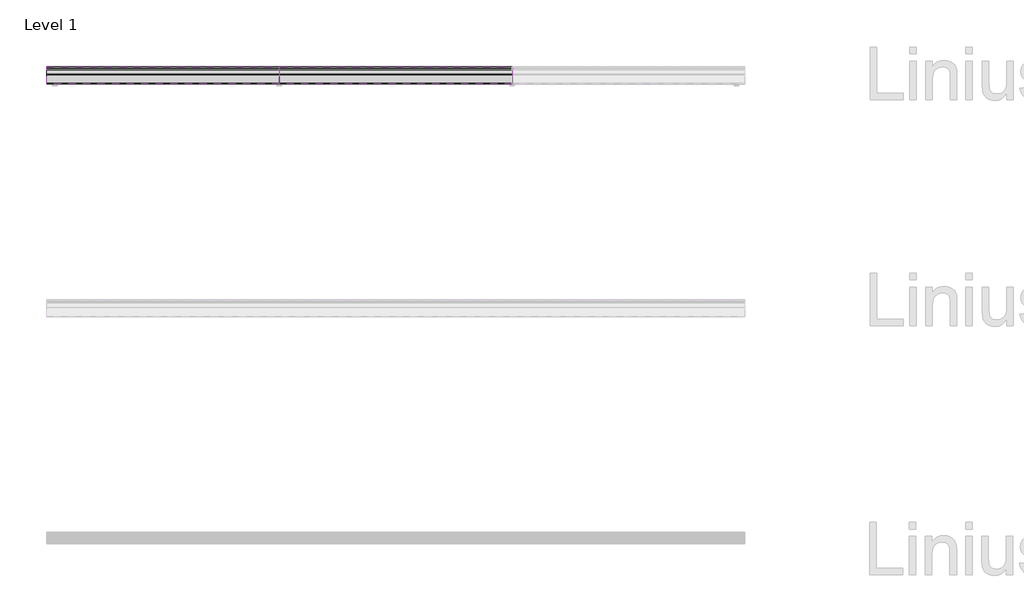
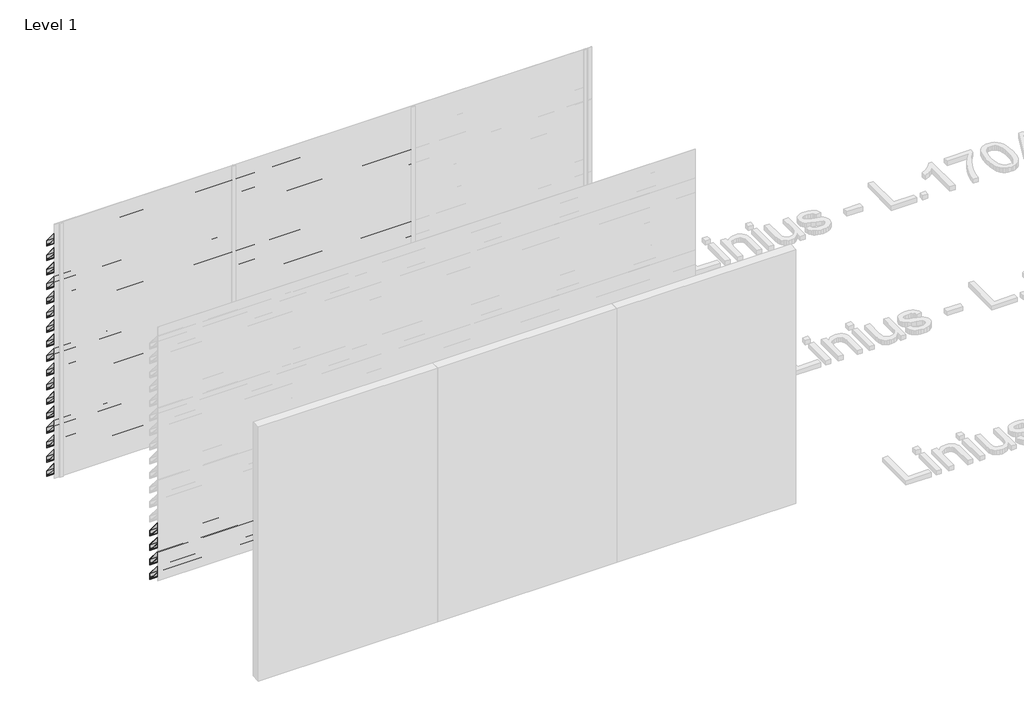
# One storey, part 52 of 121: 38 proxies.
"""IFC4 building model written with IfcOpenShell, lengths in millimetres."""

import ifcopenshell
import ifcopenshell.guid

model = None  # the IFC model being written
_history = None  # IfcOwnerHistory: only IFC2X3 demands one
_inside = {}  # id of a spatial element -> (the spatial element, [elements in it])
_under = {}  # id of a project, library or spatial element -> (it, [spatial elements below it])
_declared = {}  # id of a project -> (the project, [libraries it declares])
_typed = {}  # id of a type object -> (the type object, [elements of that type])
_made_of = {}  # id of a material, layer set ... -> (it, [elements and type objects made of it])


def new_model(schema):
    """Start an empty IFC model of exactly this schema.

    Asked for "IFC4X3", IfcOpenShell would pick the latest addendum, in which some entities
    have other attributes; the version numbers below select the first issue.
    IFC2X3 requires an IfcOwnerHistory on every rooted entity: one is made here for all.
    """
    global model, _history
    if schema == "IFC4X3":
        model = ifcopenshell.file(schema_version=(4, 3, 0, 0))
    else:
        model = ifcopenshell.file(schema=schema)
    _inside.clear()
    _under.clear()
    _declared.clear()
    _typed.clear()
    _made_of.clear()
    _history = None
    if model.schema == "IFC2X3":
        org = make("IfcOrganization", Name="unknown")
        user = make(
            "IfcPersonAndOrganization",
            ThePerson=make("IfcPerson", FamilyName="unknown"),
            TheOrganization=org,
        )
        app = make(
            "IfcApplication",
            ApplicationDeveloper=org,
            Version="unknown",
            ApplicationFullName="unknown",
            ApplicationIdentifier="unknown",
        )
        _history = make(
            "IfcOwnerHistory",
            OwningUser=user,
            OwningApplication=app,
            ChangeAction="ADDED",
            CreationDate=0,
        )
    return model


def make(cls, **values):
    """One entity of the class cls with the attributes given. An attribute that is None is left unset."""
    return model.create_entity(
        cls, **{name: value for name, value in values.items() if value is not None}
    )


def rooted(cls, **values):
    """An entity with a GlobalId (a new one), such as an element, a storey or a relation."""
    return make(cls, GlobalId=ifcopenshell.guid.new(), OwnerHistory=_history, **values)


def si_unit(unit_type, name, prefix=None):
    """IfcSIUnit, for example si_unit("LENGTHUNIT", "METRE", prefix="MILLI")."""
    return make("IfcSIUnit", UnitType=unit_type, Prefix=prefix, Name=name)


def assignment(units):
    """IfcUnitAssignment: the units of a project."""
    return None if units is None else make("IfcUnitAssignment", Units=units)


def point(xyz):
    """IfcCartesianPoint."""
    return None if xyz is None else make("IfcCartesianPoint", Coordinates=xyz)


def direction(xyz):
    """IfcDirection."""
    return None if xyz is None else make("IfcDirection", DirectionRatios=xyz)


def frame(location, z_axis=None, x_axis=None):
    """IfcAxis2Placement3D, a coordinate frame: its origin and axes. An axis left out is left unset."""
    return make(
        "IfcAxis2Placement3D",
        Location=point(location),
        Axis=direction(z_axis),
        RefDirection=direction(x_axis),
    )


def origin():
    """The frame at (0, 0, 0) with its axes left unset."""
    return frame((0.0, 0.0, 0.0))


def place(relative_to, where):
    """IfcLocalPlacement: puts the frame where relative to a parent placement (None: the world)."""
    return make(
        "IfcLocalPlacement", PlacementRelTo=relative_to, RelativePlacement=where
    )


def context(
    kind, dimensions, precision=None, world=None, true_north=None, identifier=None
):
    """IfcGeometricRepresentationContext, for example the 3D "Model" context."""
    return make(
        "IfcGeometricRepresentationContext",
        ContextIdentifier=identifier,
        ContextType=kind,
        CoordinateSpaceDimension=dimensions,
        Precision=precision,
        WorldCoordinateSystem=world,
        TrueNorth=true_north,
    )


def project(units=None, contexts=None):
    """IfcProject with its units and contexts."""
    return rooted(
        "IfcProject",
        Name="project",
        RepresentationContexts=contexts,
        UnitsInContext=assignment(units),
    )


def spatial(cls, under=None, at=None, **own):
    """A site, building, storey or space (cls), placed at a placement, below another one or the project."""
    s = rooted(cls, ObjectPlacement=at, **own)
    if under is not None:
        _under.setdefault(under.id(), (under, []))[1].append(s)
    return s


def polyline(points):
    """IfcPolyline through the points."""
    return make("IfcPolyline", Points=[point(p) for p in points])


def outline(outer, holes=None, kind="AREA"):
    """IfcArbitraryClosedProfileDef: a profile drawn as a closed curve; with holes, ...WithVoids."""
    if holes is None:
        return make("IfcArbitraryClosedProfileDef", ProfileType=kind, OuterCurve=outer)
    return make(
        "IfcArbitraryProfileDefWithVoids",
        ProfileType=kind,
        OuterCurve=outer,
        InnerCurves=holes,
    )


def extrude(swept, where, along, depth):
    """IfcExtrudedAreaSolid: the profile swept, set in the frame where, extruded along a direction by depth."""
    return make(
        "IfcExtrudedAreaSolid",
        SweptArea=swept,
        Position=where,
        ExtrudedDirection=direction(along),
        Depth=depth,
    )


def shape(context_of_items, identifier, shape_type, items):
    """IfcShapeRepresentation: the items that make up one representation, for example the "Body"."""
    return make(
        "IfcShapeRepresentation",
        ContextOfItems=context_of_items,
        RepresentationIdentifier=identifier,
        RepresentationType=shape_type,
        Items=items,
    )


def made_of(thing, what):
    """Note that an element or type object is made of a material, layer set ...; save() writes the relation."""
    if what is not None:
        _made_of.setdefault(what.id(), (what, []))[1].append(thing)
    return thing


def element(
    cls,
    number,
    at=None,
    inside=None,
    cuts=None,
    type_object=None,
    material=None,
    context=None,
    identifier="Body",
    shape_type=None,
    held_by="IfcProductDefinitionShape",
    body=None,
    shapes=None,
    **own,
):
    """One element of the class cls, such as IfcWall. Its Tag is "e" and its number.

    at: its placement. inside: the storey or other place that contains it. cuts: it is an
    opening in that element (IfcRelVoidsElement). A single representation is given by context,
    identifier, shape_type and body (its items); several are given by shapes. held_by: the class
    of the entity that holds the representations. save() writes the other relations.
    """
    e = rooted(cls, Tag="e%d" % number, ObjectPlacement=at, **own)
    if body is not None:
        shapes = [shape(context, identifier, shape_type, body)]
    if shapes is not None:
        e.Representation = make(held_by, Representations=shapes)
    if inside is not None:
        _inside.setdefault(inside.id(), (inside, []))[1].append(e)
    if cuts is not None:
        rooted(
            "IfcRelVoidsElement", RelatingBuildingElement=cuts, RelatedOpeningElement=e
        )
    if type_object is not None:
        _typed.setdefault(type_object.id(), (type_object, []))[1].append(e)
    return made_of(e, material)


def aggregate(whole, parts):
    """IfcRelAggregates: a whole, such as a stair, and the parts it consists of."""
    return rooted("IfcRelAggregates", RelatingObject=whole, RelatedObjects=parts)


def save(model, path):
    """Write the relations noted so far, then the file.

    IfcRelAggregates (storeys below a building ...), IfcRelContainedInSpatialStructure (elements
    in a storey), IfcRelDefinesByType, IfcRelAssociatesMaterial and IfcRelDeclares: one each for
    every whole, place, type object, material and project.
    """
    for whole, parts in _under.values():
        aggregate(whole, parts)
    for where, things in _inside.values():
        rooted(
            "IfcRelContainedInSpatialStructure",
            RelatedElements=things,
            RelatingStructure=where,
        )
    for kind, things in _typed.values():
        rooted("IfcRelDefinesByType", RelatedObjects=things, RelatingType=kind)
    for what, things in _made_of.values():
        rooted("IfcRelAssociatesMaterial", RelatedObjects=things, RelatingMaterial=what)
    for by, libraries in _declared.values():
        rooted("IfcRelDeclares", RelatingContext=by, RelatedDefinitions=libraries)
    model.write(path)


model = new_model("IFC4")

# Units and contexts
model_context = context("Model", 3, world=origin())
ifc_project = project(units=[si_unit("LENGTHUNIT", "METRE", prefix="MILLI")], contexts=[model_context])

# Site, building, storey
site = spatial("IfcSite", under=ifc_project)
building = spatial("IfcBuilding", under=site)
storey = spatial("IfcBuildingStorey", under=building, Name="Level 1", Elevation=0.0)

# Proxies
placement = place(None, origin())
element("IfcBuildingElementProxy", 1, Name="Wall Sweeps", at=placement, inside=storey, context=model_context, shape_type="SweptSolid", body=[
    extrude(outline(polyline([(44130.0540136, 2720.0), (44130.0540136, 2651.0), (44127.5540136, 2652.1657691), (44127.5540136, 2665.7059843), (44110.8041465, 2685.6676986), (44100.1189071, 2685.6676986), (43983.0540136, 2825.1802059), (43983.0540136, 2890.0), (43987.4070763, 2890.0), (44130.0540136, 2720.0)]), holes=[polyline([(43986.5210918, 2888.1), (43984.9540136, 2888.1), (43984.9540136, 2825.8717493), (44101.0048916, 2687.5676986), (44111.6901311, 2687.5676986), (44128.1540136, 2667.9468074), (44128.1540136, 2719.3084566), (43986.5210918, 2888.1)])]), frame((44966.6208097, 0.0, 0.0), z_axis=(1.0, 0.0, 0.0), x_axis=(0.0, 1.0, 0.0)), (0.0, 0.0, 1.0), 2000.0),
])
element("IfcBuildingElementProxy", 2, Name="Wall Sweeps", at=placement, inside=storey, context=model_context, shape_type="SweptSolid", body=[
    extrude(outline(polyline([(44130.0540136, 2550.0), (44130.0540136, 2481.0), (44127.5540136, 2482.1657691), (44127.5540136, 2495.7059843), (44110.8041465, 2515.6676986), (44100.1189071, 2515.6676986), (43983.0540136, 2655.1802059), (43983.0540136, 2720.0), (43987.4070763, 2720.0), (44130.0540136, 2550.0)]), holes=[polyline([(43986.5210918, 2718.1), (43984.9540136, 2718.1), (43984.9540136, 2655.8717493), (44101.0048916, 2517.5676986), (44111.6901311, 2517.5676986), (44128.1540136, 2497.9468074), (44128.1540136, 2549.3084566), (43986.5210918, 2718.1)])]), frame((44966.6208097, 0.0, 0.0), z_axis=(1.0, 0.0, 0.0), x_axis=(0.0, 1.0, 0.0)), (0.0, 0.0, 1.0), 2000.0),
])
element("IfcBuildingElementProxy", 3, Name="Wall Sweeps", at=placement, inside=storey, context=model_context, shape_type="SweptSolid", body=[
    extrude(outline(polyline([(44130.0540136, 2380.0), (44130.0540136, 2311.0), (44127.5540136, 2312.1657691), (44127.5540136, 2325.7059843), (44110.8041465, 2345.6676986), (44100.1189071, 2345.6676986), (43983.0540136, 2485.1802059), (43983.0540136, 2550.0), (43987.4070763, 2550.0), (44130.0540136, 2380.0)]), holes=[polyline([(43986.5210918, 2548.1), (43984.9540136, 2548.1), (43984.9540136, 2485.8717493), (44101.0048916, 2347.5676986), (44111.6901311, 2347.5676986), (44128.1540136, 2327.9468074), (44128.1540136, 2379.3084566), (43986.5210918, 2548.1)])]), frame((44966.6208097, 0.0, 0.0), z_axis=(1.0, 0.0, 0.0), x_axis=(0.0, 1.0, 0.0)), (0.0, 0.0, 1.0), 2000.0),
])
element("IfcBuildingElementProxy", 4, Name="Wall Sweeps", at=placement, inside=storey, context=model_context, shape_type="SweptSolid", body=[
    extrude(outline(polyline([(44130.0540136, 2210.0), (44130.0540136, 2141.0), (44127.5540136, 2142.1657691), (44127.5540136, 2155.7059843), (44110.8041465, 2175.6676986), (44100.1189071, 2175.6676986), (43983.0540136, 2315.1802059), (43983.0540136, 2380.0), (43987.4070763, 2380.0), (44130.0540136, 2210.0)]), holes=[polyline([(43986.5210918, 2378.1), (43984.9540136, 2378.1), (43984.9540136, 2315.8717493), (44101.0048916, 2177.5676986), (44111.6901311, 2177.5676986), (44128.1540136, 2157.9468074), (44128.1540136, 2209.3084566), (43986.5210918, 2378.1)])]), frame((44966.6208097, 0.0, 0.0), z_axis=(1.0, 0.0, 0.0), x_axis=(0.0, 1.0, 0.0)), (0.0, 0.0, 1.0), 2000.0),
])
element("IfcBuildingElementProxy", 5, Name="Wall Sweeps", at=placement, inside=storey, context=model_context, shape_type="SweptSolid", body=[
    extrude(outline(polyline([(44130.0540136, 2040.0), (44130.0540136, 1971.0), (44127.5540136, 1972.1657691), (44127.5540136, 1985.7059843), (44110.8041465, 2005.6676986), (44100.1189071, 2005.6676986), (43983.0540136, 2145.1802059), (43983.0540136, 2210.0), (43987.4070763, 2210.0), (44130.0540136, 2040.0)]), holes=[polyline([(43986.5210918, 2208.1), (43984.9540136, 2208.1), (43984.9540136, 2145.8717493), (44101.0048916, 2007.5676986), (44111.6901311, 2007.5676986), (44128.1540136, 1987.9468074), (44128.1540136, 2039.3084566), (43986.5210918, 2208.1)])]), frame((44966.6208097, 0.0, 0.0), z_axis=(1.0, 0.0, 0.0), x_axis=(0.0, 1.0, 0.0)), (0.0, 0.0, 1.0), 2000.0),
])
element("IfcBuildingElementProxy", 6, Name="Wall Sweeps", at=placement, inside=storey, context=model_context, shape_type="SweptSolid", body=[
    extrude(outline(polyline([(44130.0540136, 1870.0), (44130.0540136, 1801.0), (44127.5540136, 1802.1657691), (44127.5540136, 1815.7059843), (44110.8041465, 1835.6676986), (44100.1189071, 1835.6676986), (43983.0540136, 1975.1802059), (43983.0540136, 2040.0), (43987.4070763, 2040.0), (44130.0540136, 1870.0)]), holes=[polyline([(43986.5210918, 2038.1), (43984.9540136, 2038.1), (43984.9540136, 1975.8717493), (44101.0048916, 1837.5676986), (44111.6901311, 1837.5676986), (44128.1540136, 1817.9468074), (44128.1540136, 1869.3084566), (43986.5210918, 2038.1)])]), frame((44966.6208097, 0.0, 0.0), z_axis=(1.0, 0.0, 0.0), x_axis=(0.0, 1.0, 0.0)), (0.0, 0.0, 1.0), 2000.0),
])
element("IfcBuildingElementProxy", 7, Name="Wall Sweeps", at=placement, inside=storey, context=model_context, shape_type="SweptSolid", body=[
    extrude(outline(polyline([(44130.0540136, 1700.0), (44130.0540136, 1631.0), (44127.5540136, 1632.1657691), (44127.5540136, 1645.7059843), (44110.8041465, 1665.6676986), (44100.1189071, 1665.6676986), (43983.0540136, 1805.1802059), (43983.0540136, 1870.0), (43987.4070763, 1870.0), (44130.0540136, 1700.0)]), holes=[polyline([(43986.5210918, 1868.1), (43984.9540136, 1868.1), (43984.9540136, 1805.8717493), (44101.0048916, 1667.5676986), (44111.6901311, 1667.5676986), (44128.1540136, 1647.9468074), (44128.1540136, 1699.3084566), (43986.5210918, 1868.1)])]), frame((44966.6208097, 0.0, 0.0), z_axis=(1.0, 0.0, 0.0), x_axis=(0.0, 1.0, 0.0)), (0.0, 0.0, 1.0), 2000.0),
])
element("IfcBuildingElementProxy", 8, Name="Wall Sweeps", at=placement, inside=storey, context=model_context, shape_type="SweptSolid", body=[
    extrude(outline(polyline([(44130.0540136, 1530.0), (44130.0540136, 1461.0), (44127.5540136, 1462.1657691), (44127.5540136, 1475.7059843), (44110.8041465, 1495.6676986), (44100.1189071, 1495.6676986), (43983.0540136, 1635.1802059), (43983.0540136, 1700.0), (43987.4070763, 1700.0), (44130.0540136, 1530.0)]), holes=[polyline([(43986.5210918, 1698.1), (43984.9540136, 1698.1), (43984.9540136, 1635.8717493), (44101.0048916, 1497.5676986), (44111.6901311, 1497.5676986), (44128.1540136, 1477.9468074), (44128.1540136, 1529.3084566), (43986.5210918, 1698.1)])]), frame((44966.6208097, 0.0, 0.0), z_axis=(1.0, 0.0, 0.0), x_axis=(0.0, 1.0, 0.0)), (0.0, 0.0, 1.0), 2000.0),
])
element("IfcBuildingElementProxy", 9, Name="Wall Sweeps", at=placement, inside=storey, context=model_context, shape_type="SweptSolid", body=[
    extrude(outline(polyline([(44130.0540136, 1360.0), (44130.0540136, 1291.0), (44127.5540136, 1292.1657691), (44127.5540136, 1305.7059843), (44110.8041465, 1325.6676986), (44100.1189071, 1325.6676986), (43983.0540136, 1465.1802059), (43983.0540136, 1530.0), (43987.4070763, 1530.0), (44130.0540136, 1360.0)]), holes=[polyline([(43986.5210918, 1528.1), (43984.9540136, 1528.1), (43984.9540136, 1465.8717493), (44101.0048916, 1327.5676986), (44111.6901311, 1327.5676986), (44128.1540136, 1307.9468074), (44128.1540136, 1359.3084566), (43986.5210918, 1528.1)])]), frame((44966.6208097, 0.0, 0.0), z_axis=(1.0, 0.0, 0.0), x_axis=(0.0, 1.0, 0.0)), (0.0, 0.0, 1.0), 2000.0),
])
element("IfcBuildingElementProxy", 10, Name="Wall Sweeps", at=placement, inside=storey, context=model_context, shape_type="SweptSolid", body=[
    extrude(outline(polyline([(44130.0540136, 1190.0), (44130.0540136, 1121.0), (44127.5540136, 1122.1657691), (44127.5540136, 1135.7059843), (44110.8041465, 1155.6676986), (44100.1189071, 1155.6676986), (43983.0540136, 1295.1802059), (43983.0540136, 1360.0), (43987.4070763, 1360.0), (44130.0540136, 1190.0)]), holes=[polyline([(43986.5210918, 1358.1), (43984.9540136, 1358.1), (43984.9540136, 1295.8717493), (44101.0048916, 1157.5676986), (44111.6901311, 1157.5676986), (44128.1540136, 1137.9468074), (44128.1540136, 1189.3084566), (43986.5210918, 1358.1)])]), frame((44966.6208097, 0.0, 0.0), z_axis=(1.0, 0.0, 0.0), x_axis=(0.0, 1.0, 0.0)), (0.0, 0.0, 1.0), 2000.0),
])
element("IfcBuildingElementProxy", 11, Name="Wall Sweeps", at=placement, inside=storey, context=model_context, shape_type="SweptSolid", body=[
    extrude(outline(polyline([(44130.0540136, 1020.0), (44130.0540136, 951.0), (44127.5540136, 952.1657691), (44127.5540136, 965.7059843), (44110.8041465, 985.6676986), (44100.1189071, 985.6676986), (43983.0540136, 1125.1802059), (43983.0540136, 1190.0), (43987.4070763, 1190.0), (44130.0540136, 1020.0)]), holes=[polyline([(43986.5210918, 1188.1), (43984.9540136, 1188.1), (43984.9540136, 1125.8717493), (44101.0048916, 987.5676986), (44111.6901311, 987.5676986), (44128.1540136, 967.9468074), (44128.1540136, 1019.3084566), (43986.5210918, 1188.1)])]), frame((44966.6208097, 0.0, 0.0), z_axis=(1.0, 0.0, 0.0), x_axis=(0.0, 1.0, 0.0)), (0.0, 0.0, 1.0), 2000.0),
])
element("IfcBuildingElementProxy", 12, Name="Wall Sweeps", at=placement, inside=storey, context=model_context, shape_type="SweptSolid", body=[
    extrude(outline(polyline([(44130.0540136, 850.0), (44130.0540136, 781.0), (44127.5540136, 782.1657691), (44127.5540136, 795.7059843), (44110.8041465, 815.6676986), (44100.1189071, 815.6676986), (43983.0540136, 955.1802059), (43983.0540136, 1020.0), (43987.4070763, 1020.0), (44130.0540136, 850.0)]), holes=[polyline([(43986.5210918, 1018.1), (43984.9540136, 1018.1), (43984.9540136, 955.8717493), (44101.0048916, 817.5676986), (44111.6901311, 817.5676986), (44128.1540136, 797.9468074), (44128.1540136, 849.3084566), (43986.5210918, 1018.1)])]), frame((44966.6208097, 0.0, 0.0), z_axis=(1.0, 0.0, 0.0), x_axis=(0.0, 1.0, 0.0)), (0.0, 0.0, 1.0), 2000.0),
])
element("IfcBuildingElementProxy", 13, Name="Wall Sweeps", at=placement, inside=storey, context=model_context, shape_type="SweptSolid", body=[
    extrude(outline(polyline([(44130.0540136, 680.0), (44130.0540136, 611.0), (44127.5540136, 612.1657691), (44127.5540136, 625.7059843), (44110.8041465, 645.6676986), (44100.1189071, 645.6676986), (43983.0540136, 785.1802059), (43983.0540136, 850.0), (43987.4070763, 850.0), (44130.0540136, 680.0)]), holes=[polyline([(43986.5210918, 848.1), (43984.9540136, 848.1), (43984.9540136, 785.8717493), (44101.0048916, 647.5676986), (44111.6901311, 647.5676986), (44128.1540136, 627.9468074), (44128.1540136, 679.3084566), (43986.5210918, 848.1)])]), frame((44966.6208097, 0.0, 0.0), z_axis=(1.0, 0.0, 0.0), x_axis=(0.0, 1.0, 0.0)), (0.0, 0.0, 1.0), 2000.0),
])
element("IfcBuildingElementProxy", 14, Name="Wall Sweeps", at=placement, inside=storey, context=model_context, shape_type="SweptSolid", body=[
    extrude(outline(polyline([(44130.0540136, 510.0), (44130.0540136, 441.0), (44127.5540136, 442.1657691), (44127.5540136, 455.7059843), (44110.8041465, 475.6676986), (44100.1189071, 475.6676986), (43983.0540136, 615.1802059), (43983.0540136, 680.0), (43987.4070763, 680.0), (44130.0540136, 510.0)]), holes=[polyline([(43986.5210918, 678.1), (43984.9540136, 678.1), (43984.9540136, 615.8717493), (44101.0048916, 477.5676986), (44111.6901311, 477.5676986), (44128.1540136, 457.9468074), (44128.1540136, 509.3084566), (43986.5210918, 678.1)])]), frame((44966.6208097, 0.0, 0.0), z_axis=(1.0, 0.0, 0.0), x_axis=(0.0, 1.0, 0.0)), (0.0, 0.0, 1.0), 2000.0),
])
element("IfcBuildingElementProxy", 15, Name="Wall Sweeps", at=placement, inside=storey, context=model_context, shape_type="SweptSolid", body=[
    extrude(outline(polyline([(44130.0540136, 340.0), (44130.0540136, 271.0), (44127.5540136, 272.1657691), (44127.5540136, 285.7059843), (44110.8041465, 305.6676986), (44100.1189071, 305.6676986), (43983.0540136, 445.1802059), (43983.0540136, 510.0), (43987.4070763, 510.0), (44130.0540136, 340.0)]), holes=[polyline([(43986.5210918, 508.1), (43984.9540136, 508.1), (43984.9540136, 445.8717493), (44101.0048916, 307.5676986), (44111.6901311, 307.5676986), (44128.1540136, 287.9468074), (44128.1540136, 339.3084566), (43986.5210918, 508.1)])]), frame((44966.6208097, 0.0, 0.0), z_axis=(1.0, 0.0, 0.0), x_axis=(0.0, 1.0, 0.0)), (0.0, 0.0, 1.0), 2000.0),
])
element("IfcBuildingElementProxy", 16, Name="Wall Sweeps", at=placement, inside=storey, context=model_context, shape_type="SweptSolid", body=[
    extrude(outline(polyline([(44130.0540136, 170.0), (44130.0540136, 101.0), (44127.5540136, 102.1657691), (44127.5540136, 115.7059843), (44110.8041465, 135.6676986), (44100.1189071, 135.6676986), (43983.0540136, 275.1802059), (43983.0540136, 340.0), (43987.4070763, 340.0), (44130.0540136, 170.0)]), holes=[polyline([(43986.5210918, 338.1), (43984.9540136, 338.1), (43984.9540136, 275.8717493), (44101.0048916, 137.5676986), (44111.6901311, 137.5676986), (44128.1540136, 117.9468074), (44128.1540136, 169.3084566), (43986.5210918, 338.1)])]), frame((44966.6208097, 0.0, 0.0), z_axis=(1.0, 0.0, 0.0), x_axis=(0.0, 1.0, 0.0)), (0.0, 0.0, 1.0), 2000.0),
])
element("IfcBuildingElementProxy", 17, Name="Wall Sweeps", at=placement, inside=storey, context=model_context, shape_type="SweptSolid", body=[
    extrude(outline(polyline([(44130.0540136, 0.0), (44130.0540136, -69.0), (44127.5540136, -67.8342309), (44127.5540136, -54.2940157), (44110.8041465, -34.3323014), (44100.1189071, -34.3323014), (43983.0540136, 105.1802059), (43983.0540136, 170.0), (43987.4070763, 170.0), (44130.0540136, 0.0)]), holes=[polyline([(43986.5210918, 168.1), (43984.9540136, 168.1), (43984.9540136, 105.8717493), (44101.0048916, -32.4323014), (44111.6901311, -32.4323014), (44128.1540136, -52.0531926), (44128.1540136, -0.6915434), (43986.5210918, 168.1)])]), frame((44966.6208097, 0.0, 0.0), z_axis=(1.0, 0.0, 0.0), x_axis=(0.0, 1.0, 0.0)), (0.0, 0.0, 1.0), 2000.0),
])
element("IfcBuildingElementProxy", 18, Name="Wall Sweeps", at=placement, inside=storey, context=model_context, shape_type="SweptSolid", body=[
    extrude(outline(polyline([(44130.0540136, 2720.0), (44130.0540136, 2651.0), (44127.5540136, 2652.1657691), (44127.5540136, 2665.7059843), (44110.8041465, 2685.6676986), (44100.1189071, 2685.6676986), (43983.0540136, 2825.1802059), (43983.0540136, 2890.0), (43987.4070763, 2890.0), (44130.0540136, 2720.0)]), holes=[polyline([(43986.5210918, 2888.1), (43984.9540136, 2888.1), (43984.9540136, 2825.8717493), (44101.0048916, 2687.5676986), (44111.6901311, 2687.5676986), (44128.1540136, 2667.9468074), (44128.1540136, 2719.3084566), (43986.5210918, 2888.1)])]), frame((46966.6208097, 0.0, 0.0), z_axis=(1.0, 0.0, 0.0), x_axis=(0.0, 1.0, 0.0)), (0.0, 0.0, 1.0), 2000.0),
])
element("IfcBuildingElementProxy", 19, Name="Wall Sweeps", at=placement, inside=storey, context=model_context, shape_type="SweptSolid", body=[
    extrude(outline(polyline([(44130.0540136, 2550.0), (44130.0540136, 2481.0), (44127.5540136, 2482.1657691), (44127.5540136, 2495.7059843), (44110.8041465, 2515.6676986), (44100.1189071, 2515.6676986), (43983.0540136, 2655.1802059), (43983.0540136, 2720.0), (43987.4070763, 2720.0), (44130.0540136, 2550.0)]), holes=[polyline([(43986.5210918, 2718.1), (43984.9540136, 2718.1), (43984.9540136, 2655.8717493), (44101.0048916, 2517.5676986), (44111.6901311, 2517.5676986), (44128.1540136, 2497.9468074), (44128.1540136, 2549.3084566), (43986.5210918, 2718.1)])]), frame((46966.6208097, 0.0, 0.0), z_axis=(1.0, 0.0, 0.0), x_axis=(0.0, 1.0, 0.0)), (0.0, 0.0, 1.0), 2000.0),
])
element("IfcBuildingElementProxy", 20, Name="Wall Sweeps", at=placement, inside=storey, context=model_context, shape_type="SweptSolid", body=[
    extrude(outline(polyline([(44130.0540136, 2380.0), (44130.0540136, 2311.0), (44127.5540136, 2312.1657691), (44127.5540136, 2325.7059843), (44110.8041465, 2345.6676986), (44100.1189071, 2345.6676986), (43983.0540136, 2485.1802059), (43983.0540136, 2550.0), (43987.4070763, 2550.0), (44130.0540136, 2380.0)]), holes=[polyline([(43986.5210918, 2548.1), (43984.9540136, 2548.1), (43984.9540136, 2485.8717493), (44101.0048916, 2347.5676986), (44111.6901311, 2347.5676986), (44128.1540136, 2327.9468074), (44128.1540136, 2379.3084566), (43986.5210918, 2548.1)])]), frame((46966.6208097, 0.0, 0.0), z_axis=(1.0, 0.0, 0.0), x_axis=(0.0, 1.0, 0.0)), (0.0, 0.0, 1.0), 2000.0),
])
element("IfcBuildingElementProxy", 21, Name="Wall Sweeps", at=placement, inside=storey, context=model_context, shape_type="SweptSolid", body=[
    extrude(outline(polyline([(44130.0540136, 2210.0), (44130.0540136, 2141.0), (44127.5540136, 2142.1657691), (44127.5540136, 2155.7059843), (44110.8041465, 2175.6676986), (44100.1189071, 2175.6676986), (43983.0540136, 2315.1802059), (43983.0540136, 2380.0), (43987.4070763, 2380.0), (44130.0540136, 2210.0)]), holes=[polyline([(43986.5210918, 2378.1), (43984.9540136, 2378.1), (43984.9540136, 2315.8717493), (44101.0048916, 2177.5676986), (44111.6901311, 2177.5676986), (44128.1540136, 2157.9468074), (44128.1540136, 2209.3084566), (43986.5210918, 2378.1)])]), frame((46966.6208097, 0.0, 0.0), z_axis=(1.0, 0.0, 0.0), x_axis=(0.0, 1.0, 0.0)), (0.0, 0.0, 1.0), 2000.0),
])
element("IfcBuildingElementProxy", 22, Name="Wall Sweeps", at=placement, inside=storey, context=model_context, shape_type="SweptSolid", body=[
    extrude(outline(polyline([(44130.0540136, 2040.0), (44130.0540136, 1971.0), (44127.5540136, 1972.1657691), (44127.5540136, 1985.7059843), (44110.8041465, 2005.6676986), (44100.1189071, 2005.6676986), (43983.0540136, 2145.1802059), (43983.0540136, 2210.0), (43987.4070763, 2210.0), (44130.0540136, 2040.0)]), holes=[polyline([(43986.5210918, 2208.1), (43984.9540136, 2208.1), (43984.9540136, 2145.8717493), (44101.0048916, 2007.5676986), (44111.6901311, 2007.5676986), (44128.1540136, 1987.9468074), (44128.1540136, 2039.3084566), (43986.5210918, 2208.1)])]), frame((46966.6208097, 0.0, 0.0), z_axis=(1.0, 0.0, 0.0), x_axis=(0.0, 1.0, 0.0)), (0.0, 0.0, 1.0), 2000.0),
])
element("IfcBuildingElementProxy", 23, Name="Wall Sweeps", at=placement, inside=storey, context=model_context, shape_type="SweptSolid", body=[
    extrude(outline(polyline([(44130.0540136, 1870.0), (44130.0540136, 1801.0), (44127.5540136, 1802.1657691), (44127.5540136, 1815.7059843), (44110.8041465, 1835.6676986), (44100.1189071, 1835.6676986), (43983.0540136, 1975.1802059), (43983.0540136, 2040.0), (43987.4070763, 2040.0), (44130.0540136, 1870.0)]), holes=[polyline([(43986.5210918, 2038.1), (43984.9540136, 2038.1), (43984.9540136, 1975.8717493), (44101.0048916, 1837.5676986), (44111.6901311, 1837.5676986), (44128.1540136, 1817.9468074), (44128.1540136, 1869.3084566), (43986.5210918, 2038.1)])]), frame((46966.6208097, 0.0, 0.0), z_axis=(1.0, 0.0, 0.0), x_axis=(0.0, 1.0, 0.0)), (0.0, 0.0, 1.0), 2000.0),
])
element("IfcBuildingElementProxy", 24, Name="Wall Sweeps", at=placement, inside=storey, context=model_context, shape_type="SweptSolid", body=[
    extrude(outline(polyline([(44130.0540136, 1700.0), (44130.0540136, 1631.0), (44127.5540136, 1632.1657691), (44127.5540136, 1645.7059843), (44110.8041465, 1665.6676986), (44100.1189071, 1665.6676986), (43983.0540136, 1805.1802059), (43983.0540136, 1870.0), (43987.4070763, 1870.0), (44130.0540136, 1700.0)]), holes=[polyline([(43986.5210918, 1868.1), (43984.9540136, 1868.1), (43984.9540136, 1805.8717493), (44101.0048916, 1667.5676986), (44111.6901311, 1667.5676986), (44128.1540136, 1647.9468074), (44128.1540136, 1699.3084566), (43986.5210918, 1868.1)])]), frame((46966.6208097, 0.0, 0.0), z_axis=(1.0, 0.0, 0.0), x_axis=(0.0, 1.0, 0.0)), (0.0, 0.0, 1.0), 2000.0),
])
element("IfcBuildingElementProxy", 25, Name="Wall Sweeps", at=placement, inside=storey, context=model_context, shape_type="SweptSolid", body=[
    extrude(outline(polyline([(44130.0540136, 1530.0), (44130.0540136, 1461.0), (44127.5540136, 1462.1657691), (44127.5540136, 1475.7059843), (44110.8041465, 1495.6676986), (44100.1189071, 1495.6676986), (43983.0540136, 1635.1802059), (43983.0540136, 1700.0), (43987.4070763, 1700.0), (44130.0540136, 1530.0)]), holes=[polyline([(43986.5210918, 1698.1), (43984.9540136, 1698.1), (43984.9540136, 1635.8717493), (44101.0048916, 1497.5676986), (44111.6901311, 1497.5676986), (44128.1540136, 1477.9468074), (44128.1540136, 1529.3084566), (43986.5210918, 1698.1)])]), frame((46966.6208097, 0.0, 0.0), z_axis=(1.0, 0.0, 0.0), x_axis=(0.0, 1.0, 0.0)), (0.0, 0.0, 1.0), 2000.0),
])
element("IfcBuildingElementProxy", 26, Name="Wall Sweeps", at=placement, inside=storey, context=model_context, shape_type="SweptSolid", body=[
    extrude(outline(polyline([(44130.0540136, 1360.0), (44130.0540136, 1291.0), (44127.5540136, 1292.1657691), (44127.5540136, 1305.7059843), (44110.8041465, 1325.6676986), (44100.1189071, 1325.6676986), (43983.0540136, 1465.1802059), (43983.0540136, 1530.0), (43987.4070763, 1530.0), (44130.0540136, 1360.0)]), holes=[polyline([(43986.5210918, 1528.1), (43984.9540136, 1528.1), (43984.9540136, 1465.8717493), (44101.0048916, 1327.5676986), (44111.6901311, 1327.5676986), (44128.1540136, 1307.9468074), (44128.1540136, 1359.3084566), (43986.5210918, 1528.1)])]), frame((46966.6208097, 0.0, 0.0), z_axis=(1.0, 0.0, 0.0), x_axis=(0.0, 1.0, 0.0)), (0.0, 0.0, 1.0), 2000.0),
])
element("IfcBuildingElementProxy", 27, Name="Wall Sweeps", at=placement, inside=storey, context=model_context, shape_type="SweptSolid", body=[
    extrude(outline(polyline([(44130.0540136, 1190.0), (44130.0540136, 1121.0), (44127.5540136, 1122.1657691), (44127.5540136, 1135.7059843), (44110.8041465, 1155.6676986), (44100.1189071, 1155.6676986), (43983.0540136, 1295.1802059), (43983.0540136, 1360.0), (43987.4070763, 1360.0), (44130.0540136, 1190.0)]), holes=[polyline([(43986.5210918, 1358.1), (43984.9540136, 1358.1), (43984.9540136, 1295.8717493), (44101.0048916, 1157.5676986), (44111.6901311, 1157.5676986), (44128.1540136, 1137.9468074), (44128.1540136, 1189.3084566), (43986.5210918, 1358.1)])]), frame((46966.6208097, 0.0, 0.0), z_axis=(1.0, 0.0, 0.0), x_axis=(0.0, 1.0, 0.0)), (0.0, 0.0, 1.0), 2000.0),
])
element("IfcBuildingElementProxy", 28, Name="Wall Sweeps", at=placement, inside=storey, context=model_context, shape_type="SweptSolid", body=[
    extrude(outline(polyline([(44130.0540136, 1020.0), (44130.0540136, 951.0), (44127.5540136, 952.1657691), (44127.5540136, 965.7059843), (44110.8041465, 985.6676986), (44100.1189071, 985.6676986), (43983.0540136, 1125.1802059), (43983.0540136, 1190.0), (43987.4070763, 1190.0), (44130.0540136, 1020.0)]), holes=[polyline([(43986.5210918, 1188.1), (43984.9540136, 1188.1), (43984.9540136, 1125.8717493), (44101.0048916, 987.5676986), (44111.6901311, 987.5676986), (44128.1540136, 967.9468074), (44128.1540136, 1019.3084566), (43986.5210918, 1188.1)])]), frame((46966.6208097, 0.0, 0.0), z_axis=(1.0, 0.0, 0.0), x_axis=(0.0, 1.0, 0.0)), (0.0, 0.0, 1.0), 2000.0),
])
element("IfcBuildingElementProxy", 29, Name="Wall Sweeps", at=placement, inside=storey, context=model_context, shape_type="SweptSolid", body=[
    extrude(outline(polyline([(44130.0540136, 850.0), (44130.0540136, 781.0), (44127.5540136, 782.1657691), (44127.5540136, 795.7059843), (44110.8041465, 815.6676986), (44100.1189071, 815.6676986), (43983.0540136, 955.1802059), (43983.0540136, 1020.0), (43987.4070763, 1020.0), (44130.0540136, 850.0)]), holes=[polyline([(43986.5210918, 1018.1), (43984.9540136, 1018.1), (43984.9540136, 955.8717493), (44101.0048916, 817.5676986), (44111.6901311, 817.5676986), (44128.1540136, 797.9468074), (44128.1540136, 849.3084566), (43986.5210918, 1018.1)])]), frame((46966.6208097, 0.0, 0.0), z_axis=(1.0, 0.0, 0.0), x_axis=(0.0, 1.0, 0.0)), (0.0, 0.0, 1.0), 2000.0),
])
element("IfcBuildingElementProxy", 30, Name="Wall Sweeps", at=placement, inside=storey, context=model_context, shape_type="SweptSolid", body=[
    extrude(outline(polyline([(44130.0540136, 680.0), (44130.0540136, 611.0), (44127.5540136, 612.1657691), (44127.5540136, 625.7059843), (44110.8041465, 645.6676986), (44100.1189071, 645.6676986), (43983.0540136, 785.1802059), (43983.0540136, 850.0), (43987.4070763, 850.0), (44130.0540136, 680.0)]), holes=[polyline([(43986.5210918, 848.1), (43984.9540136, 848.1), (43984.9540136, 785.8717493), (44101.0048916, 647.5676986), (44111.6901311, 647.5676986), (44128.1540136, 627.9468074), (44128.1540136, 679.3084566), (43986.5210918, 848.1)])]), frame((46966.6208097, 0.0, 0.0), z_axis=(1.0, 0.0, 0.0), x_axis=(0.0, 1.0, 0.0)), (0.0, 0.0, 1.0), 2000.0),
])
element("IfcBuildingElementProxy", 31, Name="Wall Sweeps", at=placement, inside=storey, context=model_context, shape_type="SweptSolid", body=[
    extrude(outline(polyline([(44130.0540136, 510.0), (44130.0540136, 441.0), (44127.5540136, 442.1657691), (44127.5540136, 455.7059843), (44110.8041465, 475.6676986), (44100.1189071, 475.6676986), (43983.0540136, 615.1802059), (43983.0540136, 680.0), (43987.4070763, 680.0), (44130.0540136, 510.0)]), holes=[polyline([(43986.5210918, 678.1), (43984.9540136, 678.1), (43984.9540136, 615.8717493), (44101.0048916, 477.5676986), (44111.6901311, 477.5676986), (44128.1540136, 457.9468074), (44128.1540136, 509.3084566), (43986.5210918, 678.1)])]), frame((46966.6208097, 0.0, 0.0), z_axis=(1.0, 0.0, 0.0), x_axis=(0.0, 1.0, 0.0)), (0.0, 0.0, 1.0), 2000.0),
])
element("IfcBuildingElementProxy", 32, Name="Wall Sweeps", at=placement, inside=storey, context=model_context, shape_type="SweptSolid", body=[
    extrude(outline(polyline([(44130.0540136, 340.0), (44130.0540136, 271.0), (44127.5540136, 272.1657691), (44127.5540136, 285.7059843), (44110.8041465, 305.6676986), (44100.1189071, 305.6676986), (43983.0540136, 445.1802059), (43983.0540136, 510.0), (43987.4070763, 510.0), (44130.0540136, 340.0)]), holes=[polyline([(43986.5210918, 508.1), (43984.9540136, 508.1), (43984.9540136, 445.8717493), (44101.0048916, 307.5676986), (44111.6901311, 307.5676986), (44128.1540136, 287.9468074), (44128.1540136, 339.3084566), (43986.5210918, 508.1)])]), frame((46966.6208097, 0.0, 0.0), z_axis=(1.0, 0.0, 0.0), x_axis=(0.0, 1.0, 0.0)), (0.0, 0.0, 1.0), 2000.0),
])
element("IfcBuildingElementProxy", 33, Name="Wall Sweeps", at=placement, inside=storey, context=model_context, shape_type="SweptSolid", body=[
    extrude(outline(polyline([(44130.0540136, 170.0), (44130.0540136, 101.0), (44127.5540136, 102.1657691), (44127.5540136, 115.7059843), (44110.8041465, 135.6676986), (44100.1189071, 135.6676986), (43983.0540136, 275.1802059), (43983.0540136, 340.0), (43987.4070763, 340.0), (44130.0540136, 170.0)]), holes=[polyline([(43986.5210918, 338.1), (43984.9540136, 338.1), (43984.9540136, 275.8717493), (44101.0048916, 137.5676986), (44111.6901311, 137.5676986), (44128.1540136, 117.9468074), (44128.1540136, 169.3084566), (43986.5210918, 338.1)])]), frame((46966.6208097, 0.0, 0.0), z_axis=(1.0, 0.0, 0.0), x_axis=(0.0, 1.0, 0.0)), (0.0, 0.0, 1.0), 2000.0),
])
element("IfcBuildingElementProxy", 34, Name="Wall Sweeps", at=placement, inside=storey, context=model_context, shape_type="SweptSolid", body=[
    extrude(outline(polyline([(44130.0540136, 0.0), (44130.0540136, -69.0), (44127.5540136, -67.8342309), (44127.5540136, -54.2940157), (44110.8041465, -34.3323014), (44100.1189071, -34.3323014), (43983.0540136, 105.1802059), (43983.0540136, 170.0), (43987.4070763, 170.0), (44130.0540136, 0.0)]), holes=[polyline([(43986.5210918, 168.1), (43984.9540136, 168.1), (43984.9540136, 105.8717493), (44101.0048916, -32.4323014), (44111.6901311, -32.4323014), (44128.1540136, -52.0531926), (44128.1540136, -0.6915434), (43986.5210918, 168.1)])]), frame((46966.6208097, 0.0, 0.0), z_axis=(1.0, 0.0, 0.0), x_axis=(0.0, 1.0, 0.0)), (0.0, 0.0, 1.0), 2000.0),
])
element("IfcBuildingElementProxy", 35, Name="Wall Sweeps", at=placement, inside=storey, context=model_context, shape_type="SweptSolid", body=[
    extrude(outline(polyline([(42130.0540136, 510.0), (42130.0540136, 441.0), (42127.5540136, 442.1657691), (42127.5540136, 455.7059843), (42110.8041465, 475.6676986), (42100.1189071, 475.6676986), (41983.0540136, 615.1802059), (41983.0540136, 680.0), (41987.4070763, 680.0), (42130.0540136, 510.0)]), holes=[polyline([(41986.5210918, 678.1), (41984.9540136, 678.1), (41984.9540136, 615.8717493), (42101.0048916, 477.5676986), (42111.6901311, 477.5676986), (42128.1540136, 457.9468074), (42128.1540136, 509.3084566), (41986.5210918, 678.1)])]), frame((44966.6208097, 0.0, 0.0), z_axis=(1.0, 0.0, 0.0), x_axis=(0.0, 1.0, 0.0)), (0.0, 0.0, 1.0), 6000.0),
])
element("IfcBuildingElementProxy", 36, Name="Wall Sweeps", at=placement, inside=storey, context=model_context, shape_type="SweptSolid", body=[
    extrude(outline(polyline([(42130.0540136, 340.0), (42130.0540136, 271.0), (42127.5540136, 272.1657691), (42127.5540136, 285.7059843), (42110.8041465, 305.6676986), (42100.1189071, 305.6676986), (41983.0540136, 445.1802059), (41983.0540136, 510.0), (41987.4070763, 510.0), (42130.0540136, 340.0)]), holes=[polyline([(41986.5210918, 508.1), (41984.9540136, 508.1), (41984.9540136, 445.8717493), (42101.0048916, 307.5676986), (42111.6901311, 307.5676986), (42128.1540136, 287.9468074), (42128.1540136, 339.3084566), (41986.5210918, 508.1)])]), frame((44966.6208097, 0.0, 0.0), z_axis=(1.0, 0.0, 0.0), x_axis=(0.0, 1.0, 0.0)), (0.0, 0.0, 1.0), 6000.0),
])
element("IfcBuildingElementProxy", 37, Name="Wall Sweeps", at=placement, inside=storey, context=model_context, shape_type="SweptSolid", body=[
    extrude(outline(polyline([(42130.0540136, 170.0), (42130.0540136, 101.0), (42127.5540136, 102.1657691), (42127.5540136, 115.7059843), (42110.8041465, 135.6676986), (42100.1189071, 135.6676986), (41983.0540136, 275.1802059), (41983.0540136, 340.0), (41987.4070763, 340.0), (42130.0540136, 170.0)]), holes=[polyline([(41986.5210918, 338.1), (41984.9540136, 338.1), (41984.9540136, 275.8717493), (42101.0048916, 137.5676986), (42111.6901311, 137.5676986), (42128.1540136, 117.9468074), (42128.1540136, 169.3084566), (41986.5210918, 338.1)])]), frame((44966.6208097, 0.0, 0.0), z_axis=(1.0, 0.0, 0.0), x_axis=(0.0, 1.0, 0.0)), (0.0, 0.0, 1.0), 6000.0),
])
element("IfcBuildingElementProxy", 38, Name="Wall Sweeps", at=placement, inside=storey, context=model_context, shape_type="SweptSolid", body=[
    extrude(outline(polyline([(42130.0540136, 0.0), (42130.0540136, -69.0), (42127.5540136, -67.8342309), (42127.5540136, -54.2940157), (42110.8041465, -34.3323014), (42100.1189071, -34.3323014), (41983.0540136, 105.1802059), (41983.0540136, 170.0), (41987.4070763, 170.0), (42130.0540136, 0.0)]), holes=[polyline([(41986.5210918, 168.1), (41984.9540136, 168.1), (41984.9540136, 105.8717493), (42101.0048916, -32.4323014), (42111.6901311, -32.4323014), (42128.1540136, -52.0531926), (42128.1540136, -0.6915434), (41986.5210918, 168.1)])]), frame((44966.6208097, 0.0, 0.0), z_axis=(1.0, 0.0, 0.0), x_axis=(0.0, 1.0, 0.0)), (0.0, 0.0, 1.0), 6000.0),
])

save(model, "model.ifc")
